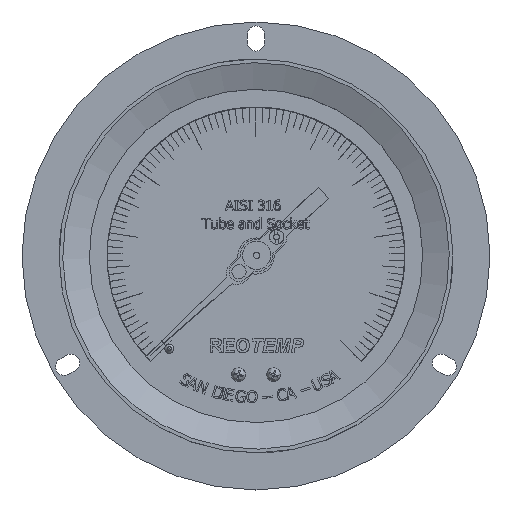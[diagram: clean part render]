
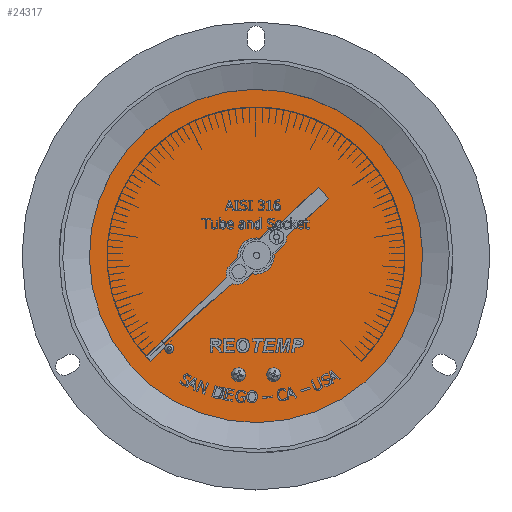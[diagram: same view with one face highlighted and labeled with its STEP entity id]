
A CAD part, top view. The second image highlights one B-rep face of the part: STEP entity #24317.
In plain terms, the highlighted planar face has unit normal (0, 0, -1).
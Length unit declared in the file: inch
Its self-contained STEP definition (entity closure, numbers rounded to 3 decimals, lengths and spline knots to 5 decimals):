
#57=FACE_BOUND($,#2214,.T.);
#58=FACE_BOUND($,#2215,.T.);
#362=CIRCLE($,#25636,0.05);
#365=CIRCLE($,#25643,1.82);
#2214=EDGE_LOOP($,(#15377));
#2215=EDGE_LOOP($,(#15378));
#9515=VERTEX_POINT($,#32315);
#9518=VERTEX_POINT($,#32325);
#11852=EDGE_CURVE($,#9515,#9515,#362,.T.);
#11855=EDGE_CURVE($,#9518,#9518,#365,.T.);
#15377=ORIENTED_EDGE($,*,*,#11852,.T.);
#15378=ORIENTED_EDGE($,*,*,#11855,.F.);
#22206=PLANE($,#25642);
#24317=ADVANCED_FACE($,(#57,#58),#22206,.F.);
#25636=AXIS2_PLACEMENT_3D($,#32316,#26961,#26962);
#25642=AXIS2_PLACEMENT_3D($,#32324,#26973,#26974);
#25643=AXIS2_PLACEMENT_3D($,#32326,#26975,#26976);
#26961=DIRECTION('center_axis',(0.,0.,1.));
#26962=DIRECTION('ref_axis',(0.951,-0.309,0.));
#26973=DIRECTION('center_axis',(0.,0.,1.));
#26974=DIRECTION('ref_axis',(-0.781,-0.625,0.));
#26975=DIRECTION('center_axis',(0.,0.,1.));
#26976=DIRECTION('ref_axis',(-0.015,1.,0.));
#32315=CARTESIAN_POINT('',(7.36474,-2.78438,-3.78258));
#32316=CARTESIAN_POINT('Origin',(7.41229,-2.79983,-3.78258));
#32324=CARTESIAN_POINT('Origin',(8.35851,-1.78831,-3.78258));
#32325=CARTESIAN_POINT('',(8.38567,-3.6081,-3.78258));
#32326=CARTESIAN_POINT('Origin',(8.35851,-1.78831,-3.78258));
